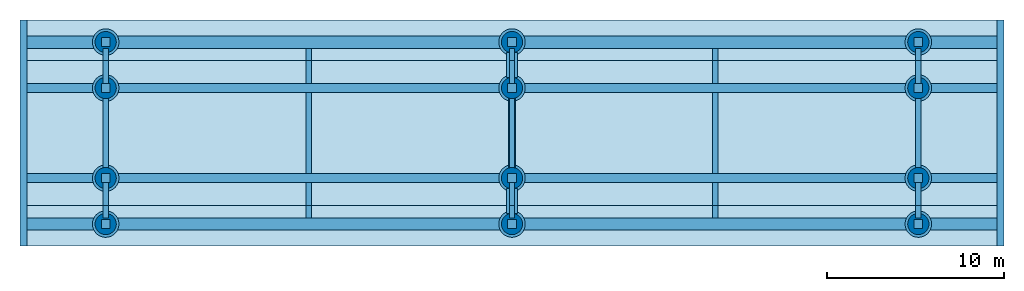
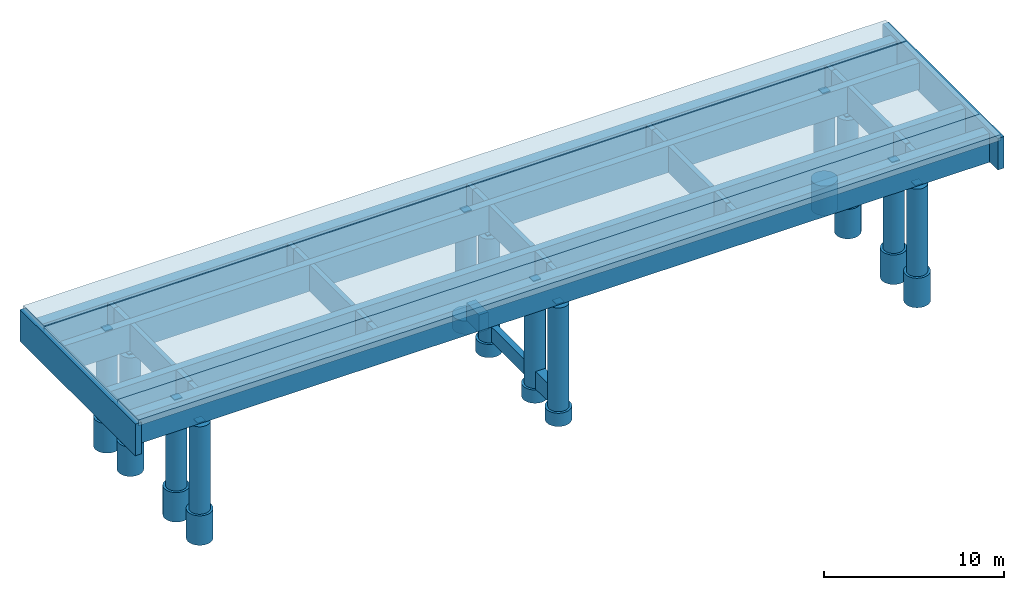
# Not in any storey: 53 members, 12 columns, 5 slabs, 3 beams.
"""IFC2X3 building model written with IfcOpenShell, lengths in millimetres."""

from ifc_helpers import new_model, si_unit, derived_unit, frame, origin, origin_2d, place, context, subcontext, project, spatial, polyline, rectangle, circle, outline, extrude, material, element, save


model = new_model("IFC2X3")

# Units and contexts
model_context = context("Model", 3, precision=1e-05, world=origin())
body_context = subcontext(model_context, "Body", "Model", "MODEL_VIEW")
ifc_project = project(units=[si_unit("LENGTHUNIT", "METRE", prefix="MILLI"), si_unit("AREAUNIT", "SQUARE_METRE"), si_unit("VOLUMEUNIT", "CUBIC_METRE"), si_unit("MASSUNIT", "GRAM", prefix="KILO"), si_unit("TIMEUNIT", "SECOND"), si_unit("PLANEANGLEUNIT", "RADIAN"), si_unit("SOLIDANGLEUNIT", "STERADIAN"), si_unit("THERMODYNAMICTEMPERATUREUNIT", "KELVIN"), si_unit("LUMINOUSINTENSITYUNIT", "LUMEN"), si_unit("POWERUNIT", "WATT"), derived_unit("THERMALTRANSMITTANCEUNIT", [(si_unit("AREAUNIT", "SQUARE_METRE"), -1), (si_unit("THERMODYNAMICTEMPERATUREUNIT", "KELVIN"), -1), (si_unit("POWERUNIT", "WATT"), 1)])], contexts=[model_context])

# Building
building_placement = place(None, origin())
building = spatial("IfcBuilding", under=ifc_project, at=building_placement, Name="Building", CompositionType="ELEMENT")

# Columns
ifc_material_1 = material(Name="C30")
column_1_placement = place(building_placement, frame((4650.0, 1250.0, -8150.0), z_axis=(-1.0, 0.0, 0.0), x_axis=(0.0, 0.0, 1.0)))
element("IfcColumn", 1, at=column_1_placement, inside=building, material=ifc_material_1, Name="B1", context=body_context, shape_type="SweptSolid", body=[
    extrude(circle(Radius=600.0, at=origin_2d()), frame((0.0, 0.0, 0.0), z_axis=(1.0, 0.0, 0.0), x_axis=(0.0, 1.0, 0.0)), (0.0, 0.0, 1.0), 5930.0),
])
ifc_material_2 = material(Name="C30")
column_2_placement = place(building_placement, frame((4650.0, 8950.0, -8150.0), z_axis=(-1.0, 0.0, 0.0), x_axis=(0.0, 6.030896e-10, 1.0)))
element("IfcColumn", 2, at=column_2_placement, inside=building, material=ifc_material_2, Name="B6", context=body_context, shape_type="SweptSolid", body=[
    extrude(circle(Radius=600.0, at=origin_2d()), frame((0.0, 0.0, 0.0), z_axis=(1.0, 0.0, 0.0), x_axis=(0.0, 1.0, 0.0)), (0.0, 0.0, 1.0), 5930.0),
])
ifc_material_3 = material(Name="C30")
column_3_placement = place(building_placement, frame((4650.0, 11550.0, -8150.0), z_axis=(-1.0, 0.0, 0.0), x_axis=(0.0, 0.0, 1.0)))
element("IfcColumn", 3, at=column_3_placement, inside=building, material=ifc_material_3, Name="B7", context=body_context, shape_type="SweptSolid", body=[
    extrude(circle(Radius=600.0, at=origin_2d()), frame((0.0, 0.0, 0.0), z_axis=(1.0, 0.0, 0.0), x_axis=(0.0, 1.0, 0.0)), (0.0, 0.0, 1.0), 5930.0),
])
ifc_material_4 = material(Name="C30")
column_4_placement = place(building_placement, frame((4650.0, 3850.0, -8150.0), z_axis=(-1.0, 0.0, 0.0), x_axis=(0.0, 0.0, 1.0)))
element("IfcColumn", 4, at=column_4_placement, inside=building, material=ifc_material_4, Name="B9", context=body_context, shape_type="SweptSolid", body=[
    extrude(circle(Radius=600.0, at=origin_2d()), frame((0.0, 0.0, 0.0), z_axis=(1.0, 0.0, 0.0), x_axis=(0.0, 1.0, 0.0)), (0.0, 0.0, 1.0), 5930.0),
])
ifc_material_5 = material(Name="C30")
column_5_placement = place(building_placement, frame((27650.0, 8950.0, -9250.0), z_axis=(-1.0, 0.0, 0.0), x_axis=(0.0, 0.0, 1.0)))
element("IfcColumn", 5, at=column_5_placement, inside=building, material=ifc_material_5, Name="B11", context=body_context, shape_type="SweptSolid", body=[
    extrude(circle(Radius=600.0, at=origin_2d()), frame((0.0, 0.0, 0.0), z_axis=(1.0, 0.0, 0.0), x_axis=(0.0, 1.0, 0.0)), (0.0, 0.0, 1.0), 7030.0),
])
ifc_material_6 = material(Name="C30")
column_6_placement = place(building_placement, frame((27650.0, 11550.0, -9250.0), z_axis=(-1.0, 0.0, 0.0), x_axis=(0.0, 0.0, 1.0)))
element("IfcColumn", 6, at=column_6_placement, inside=building, material=ifc_material_6, Name="B12", context=body_context, shape_type="SweptSolid", body=[
    extrude(circle(Radius=600.0, at=origin_2d()), frame((0.0, 0.0, 0.0), z_axis=(1.0, 0.0, 0.0), x_axis=(0.0, 1.0, 0.0)), (0.0, 0.0, 1.0), 7030.0),
])
ifc_material_7 = material(Name="C30")
column_7_placement = place(building_placement, frame((27650.0, 1250.0, -9250.0), z_axis=(-1.0, 0.0, 0.0), x_axis=(0.0, 0.0, 1.0)))
element("IfcColumn", 7, at=column_7_placement, inside=building, material=ifc_material_7, Name="B16", context=body_context, shape_type="SweptSolid", body=[
    extrude(circle(Radius=600.0, at=origin_2d()), frame((0.0, 0.0, 0.0), z_axis=(1.0, 0.0, 0.0), x_axis=(0.0, 1.0, 0.0)), (0.0, 0.0, 1.0), 7030.0),
])
ifc_material_8 = material(Name="C30")
column_8_placement = place(building_placement, frame((50650.0, 8950.0, -8150.0), z_axis=(-1.0, 0.0, 0.0), x_axis=(0.0, 0.0, 1.0)))
element("IfcColumn", 8, at=column_8_placement, inside=building, material=ifc_material_8, Name="B22", context=body_context, shape_type="SweptSolid", body=[
    extrude(circle(Radius=600.0, at=origin_2d()), frame((0.0, 0.0, 0.0), z_axis=(1.0, 0.0, 0.0), x_axis=(0.0, 1.0, 0.0)), (0.0, 0.0, 1.0), 5930.0),
])
ifc_material_9 = material(Name="C30")
column_9_placement = place(building_placement, frame((50650.0, 1250.0, -8150.0), z_axis=(-1.0, 0.0, 0.0), x_axis=(0.0, 0.0, 1.0)))
element("IfcColumn", 9, at=column_9_placement, inside=building, material=ifc_material_9, Name="B23", context=body_context, shape_type="SweptSolid", body=[
    extrude(circle(Radius=600.0, at=origin_2d()), frame((0.0, 0.0, 0.0), z_axis=(1.0, 0.0, 0.0), x_axis=(0.0, 1.0, 0.0)), (0.0, 0.0, 1.0), 5930.0),
])
ifc_material_10 = material(Name="C30")
column_10_placement = place(building_placement, frame((50650.0, 3850.0, -8150.0), z_axis=(-1.0, 0.0, 0.0), x_axis=(0.0, 0.0, 1.0)))
element("IfcColumn", 10, at=column_10_placement, inside=building, material=ifc_material_10, Name="B24", context=body_context, shape_type="SweptSolid", body=[
    extrude(circle(Radius=600.0, at=origin_2d()), frame((0.0, 0.0, 0.0), z_axis=(1.0, 0.0, 0.0), x_axis=(0.0, 1.0, 0.0)), (0.0, 0.0, 1.0), 5930.0),
])
ifc_material_11 = material(Name="C30")
column_11_placement = place(building_placement, frame((50650.0, 11550.0, -8150.0), z_axis=(-1.0, 0.0, 0.0), x_axis=(0.0, 0.0, 1.0)))
element("IfcColumn", 11, at=column_11_placement, inside=building, material=ifc_material_11, Name="B30", context=body_context, shape_type="SweptSolid", body=[
    extrude(circle(Radius=600.0, at=origin_2d()), frame((0.0, 0.0, 0.0), z_axis=(1.0, 0.0, 0.0), x_axis=(0.0, 1.0, 0.0)), (0.0, 0.0, 1.0), 5930.0),
])
ifc_material_12 = material(Name="C30")
column_12_placement = place(building_placement, frame((27650.0, 3850.0, -9250.0), z_axis=(-1.0, 0.0, 0.0), x_axis=(0.0, 0.0, 1.0)))
element("IfcColumn", 12, at=column_12_placement, inside=building, material=ifc_material_12, Name="B33", context=body_context, shape_type="SweptSolid", body=[
    extrude(circle(Radius=600.0, at=origin_2d()), frame((0.0, 0.0, 0.0), z_axis=(1.0, 0.0, 0.0), x_axis=(0.0, 1.0, 0.0)), (0.0, 0.0, 1.0), 7030.0),
])

# Members
ifc_material_13 = material(Name="C30")
member_1_placement = place(building_placement, frame((4650.0, 1250.0, -10150.0), z_axis=(-1.0, 0.0, 0.0), x_axis=(0.0, 0.0, 1.0)))
element("IfcMember", 13, at=member_1_placement, inside=building, material=ifc_material_13, Name="B2", ObjectType="member", context=body_context, shape_type="SweptSolid", body=[
    extrude(circle(Radius=750.0, at=origin_2d()), frame((0.0, 0.0, 0.0), z_axis=(1.0, 0.0, 0.0), x_axis=(0.0, 1.0, 0.0)), (0.0, 0.0, 1.0), 2000.0),
])
ifc_material_14 = material(Name="C30")
member_2_placement = place(building_placement, frame((4650.0, 3850.0, -10150.0), z_axis=(-1.0, 0.0, 0.0), x_axis=(0.0, 0.0, 1.0)))
element("IfcMember", 14, at=member_2_placement, inside=building, material=ifc_material_14, Name="B3", ObjectType="member", context=body_context, shape_type="SweptSolid", body=[
    extrude(circle(Radius=750.0, at=origin_2d()), frame((0.0, 0.0, 0.0), z_axis=(1.0, 0.0, 0.0), x_axis=(0.0, 1.0, 0.0)), (0.0, 0.0, 1.0), 2000.0),
])
ifc_material_15 = material(Name="C30")
member_3_placement = place(building_placement, frame((4650.0, 8950.0, -10150.0), z_axis=(-1.0, 0.0, 0.0), x_axis=(0.0, 0.0, 1.0)))
element("IfcMember", 15, at=member_3_placement, inside=building, material=ifc_material_15, Name="B4", ObjectType="member", context=body_context, shape_type="SweptSolid", body=[
    extrude(circle(Radius=750.0, at=origin_2d()), frame((0.0, 0.0, 0.0), z_axis=(1.0, 0.0, 0.0), x_axis=(0.0, 1.0, 0.0)), (0.0, 0.0, 1.0), 2000.0),
])
ifc_material_16 = material(Name="C30")
member_4_placement = place(building_placement, frame((4650.0, 11550.0, -10150.0), z_axis=(-1.0, 0.0, 0.0), x_axis=(0.0, 0.0, 1.0)))
element("IfcMember", 16, at=member_4_placement, inside=building, material=ifc_material_16, Name="B5", ObjectType="member", context=body_context, shape_type="SweptSolid", body=[
    extrude(circle(Radius=750.0, at=origin_2d()), frame((0.0, 0.0, 0.0), z_axis=(1.0, 0.0, 0.0), x_axis=(0.0, 1.0, 0.0)), (0.0, 0.0, 1.0), 2000.0),
])
ifc_material_17 = material(Name="C30")
member_5_placement = place(building_placement, frame((27650.0, 1250.0, -10150.0), z_axis=(-1.0, 0.0, 0.0), x_axis=(0.0, 0.0, 1.0)))
element("IfcMember", 17, at=member_5_placement, inside=building, material=ifc_material_17, Name="B18", ObjectType="member", context=body_context, shape_type="SweptSolid", body=[
    extrude(circle(Radius=750.0, at=origin_2d()), frame((0.0, 0.0, 0.0), z_axis=(1.0, 0.0, 0.0), x_axis=(0.0, 1.0, 0.0)), (0.0, 0.0, 1.0), 900.0),
])
ifc_material_18 = material(Name="C30")
member_6_placement = place(building_placement, frame((27650.0, 11550.0, -10150.0), z_axis=(-1.0, 0.0, 0.0), x_axis=(0.0, 0.0, 1.0)))
element("IfcMember", 18, at=member_6_placement, inside=building, material=ifc_material_18, Name="B20", ObjectType="member", context=body_context, shape_type="SweptSolid", body=[
    extrude(circle(Radius=750.0, at=origin_2d()), frame((0.0, 0.0, 0.0), z_axis=(1.0, 0.0, 0.0), x_axis=(0.0, 1.0, 0.0)), (0.0, 0.0, 1.0), 900.0),
])
ifc_material_19 = material(Name="C30")
member_7_placement = place(building_placement, frame((50650.0, 3850.0, -10150.0), z_axis=(-1.0, 0.0, 0.0), x_axis=(0.0, 0.0, 1.0)))
element("IfcMember", 19, at=member_7_placement, inside=building, material=ifc_material_19, Name="B26", ObjectType="member", context=body_context, shape_type="SweptSolid", body=[
    extrude(circle(Radius=750.0, at=origin_2d()), frame((0.0, 0.0, 0.0), z_axis=(1.0, 0.0, 0.0), x_axis=(0.0, 1.0, 0.0)), (0.0, 0.0, 1.0), 2000.0),
])
ifc_material_20 = material(Name="C30")
member_8_placement = place(building_placement, frame((50650.0, 8950.0, -10150.0), z_axis=(-1.0, 0.0, 0.0), x_axis=(0.0, -3.349825e-09, 1.0)))
element("IfcMember", 20, at=member_8_placement, inside=building, material=ifc_material_20, Name="B27", ObjectType="member", context=body_context, shape_type="SweptSolid", body=[
    extrude(circle(Radius=750.0, at=origin_2d()), frame((0.0, 0.0, 0.0), z_axis=(1.0, 0.0, 0.0), x_axis=(0.0, 1.0, 0.0)), (0.0, 0.0, 1.0), 2000.0),
])
ifc_material_21 = material(Name="C30")
member_9_placement = place(building_placement, frame((50650.0, 1250.0, -10150.0), z_axis=(-1.0, 0.0, 0.0), x_axis=(0.0, 0.0, 1.0)))
element("IfcMember", 21, at=member_9_placement, inside=building, material=ifc_material_21, Name="B28", ObjectType="member", context=body_context, shape_type="SweptSolid", body=[
    extrude(circle(Radius=750.0, at=origin_2d()), frame((0.0, 0.0, 0.0), z_axis=(1.0, 0.0, 0.0), x_axis=(0.0, 1.0, 0.0)), (0.0, 0.0, 1.0), 2000.0),
])
ifc_material_22 = material(Name="C30")
member_10_placement = place(building_placement, frame((50650.0, 11550.0, -10150.0), z_axis=(-1.0, 0.0, 0.0), x_axis=(0.0, 0.0, 1.0)))
element("IfcMember", 22, at=member_10_placement, inside=building, material=ifc_material_22, Name="B29", ObjectType="member", context=body_context, shape_type="SweptSolid", body=[
    extrude(circle(Radius=750.0, at=origin_2d()), frame((0.0, 0.0, 0.0), z_axis=(1.0, 0.0, 0.0), x_axis=(0.0, 1.0, 0.0)), (0.0, 0.0, 1.0), 2000.0),
])
ifc_material_23 = material(Name="C30")
member_11_placement = place(building_placement, frame((27650.0, 3850.0, -10150.0), z_axis=(-1.0, 0.0, 0.0), x_axis=(0.0, 0.0, 1.0)))
element("IfcMember", 23, at=member_11_placement, inside=building, material=ifc_material_23, Name="B31", ObjectType="member", context=body_context, shape_type="SweptSolid", body=[
    extrude(circle(Radius=750.0, at=origin_2d()), frame((0.0, 0.0, 0.0), z_axis=(1.0, 0.0, 0.0), x_axis=(0.0, 1.0, 0.0)), (0.0, 0.0, 1.0), 900.0),
])
ifc_material_24 = material(Name="C30")
member_12_placement = place(building_placement, frame((27650.0, 8950.0, -10150.0), z_axis=(-1.0, 0.0, 0.0), x_axis=(0.0, 0.0, 1.0)))
element("IfcMember", 24, at=member_12_placement, inside=building, material=ifc_material_24, Name="B32", ObjectType="member", context=body_context, shape_type="SweptSolid", body=[
    extrude(circle(Radius=750.0, at=origin_2d()), frame((0.0, 0.0, 0.0), z_axis=(1.0, 0.0, 0.0), x_axis=(0.0, 1.0, 0.0)), (0.0, 0.0, 1.0), 900.0),
])

# Beams
ifc_material_25 = material(Name="C30")
beam_1_placement = place(building_placement, frame((27650.0, 4450.0, -8650.0), z_axis=(0.0, 0.0, 1.0), x_axis=(0.0, 1.0, 0.0)))
element("IfcBeam", 25, at=beam_1_placement, inside=building, material=ifc_material_25, Name="B34", context=body_context, shape_type="SweptSolid", body=[
    extrude(rectangle(XDim=400.0, YDim=1000.0, at=origin_2d()), frame((0.0, 0.0, 0.0), z_axis=(1.0, 0.0, 0.0), x_axis=(0.0, 1.0, 0.0)), (0.0, 0.0, 1.0), 3900.0),
])
ifc_material_26 = material(Name="C20")
beam_2_placement = place(building_placement, frame((27650.0, 3250.0, -8650.0), z_axis=(0.0, 0.0, 1.0), x_axis=(0.0, -1.0, 0.0)))
element("IfcBeam", 26, at=beam_2_placement, inside=building, material=ifc_material_26, Name="B35", context=body_context, shape_type="SweptSolid", body=[
    extrude(rectangle(XDim=600.0, YDim=1200.0, at=origin_2d()), frame((0.0, 0.0, 0.0), z_axis=(1.0, 0.0, 0.0), x_axis=(0.0, 1.0, 0.0)), (0.0, 0.0, 1.0), 1400.0),
])
ifc_material_27 = material(Name="C20")
beam_3_placement = place(building_placement, frame((27650.0, 10950.0, -8650.0), z_axis=(0.0, 0.0, 1.0), x_axis=(0.0, -1.0, 0.0)))
element("IfcBeam", 27, at=beam_3_placement, inside=building, material=ifc_material_27, Name="B36", context=body_context, shape_type="SweptSolid", body=[
    extrude(rectangle(XDim=600.0, YDim=1200.0, at=origin_2d()), frame((0.0, 0.0, 0.0), z_axis=(1.0, 0.0, 0.0), x_axis=(0.0, 1.0, 0.0)), (0.0, 0.0, 1.0), 1400.0),
])

# Members
ifc_material_28 = material(Name="C30")
member_13_placement = place(building_placement, frame((55300.0, 1250.0, -1175.0), z_axis=(0.0, 0.0, 1.0), x_axis=(-1.0, 0.0, 0.0)))
element("IfcMember", 28, at=member_13_placement, inside=building, material=ifc_material_28, Name="B37", ObjectType="member", context=body_context, shape_type="SweptSolid", body=[
    extrude(rectangle(XDim=700.0, YDim=1950.0, at=origin_2d()), frame((0.0, 0.0, 0.0), z_axis=(1.0, 0.0, 0.0), x_axis=(0.0, 1.0, 0.0)), (0.0, 0.0, 1.0), 55300.0),
])
ifc_material_29 = material(Name="C30")
member_14_placement = place(building_placement, frame((55300.0, 11550.0, -1175.0), z_axis=(0.0, 0.0, 1.0), x_axis=(-1.0, 0.0, 0.0)))
element("IfcMember", 29, at=member_14_placement, inside=building, material=ifc_material_29, Name="B38", ObjectType="member", context=body_context, shape_type="SweptSolid", body=[
    extrude(rectangle(XDim=700.0, YDim=1950.0, at=origin_2d()), frame((0.0, 0.0, 0.0), z_axis=(1.0, 0.0, 0.0), x_axis=(0.0, 1.0, 0.0)), (0.0, 0.0, 1.0), 55300.0),
])
ifc_material_30 = material(Name="C30")
member_15_placement = place(building_placement, frame((55300.0, 3850.0, -1050.0), z_axis=(0.0, 0.0, 1.0), x_axis=(-1.0, 0.0, 0.0)))
element("IfcMember", 30, at=member_15_placement, inside=building, material=ifc_material_30, Name="B39", ObjectType="member", context=body_context, shape_type="SweptSolid", body=[
    extrude(rectangle(XDim=500.0, YDim=1800.0, at=origin_2d()), frame((0.0, 0.0, 0.0), z_axis=(1.0, 0.0, 0.0), x_axis=(0.0, 1.0, 0.0)), (0.0, 0.0, 1.0), 55300.0),
])
ifc_material_31 = material(Name="C30")
member_16_placement = place(building_placement, frame((55300.0, 8950.0, -1050.0), z_axis=(0.0, 0.0, 1.0), x_axis=(-1.0, 4.087618e-10, 0.0)))
element("IfcMember", 31, at=member_16_placement, inside=building, material=ifc_material_31, Name="B40", ObjectType="member", context=body_context, shape_type="SweptSolid", body=[
    extrude(rectangle(XDim=500.0, YDim=1800.0, at=origin_2d()), frame((0.0, 0.0, 0.0), z_axis=(1.0, 0.0, 0.0), x_axis=(0.0, 1.0, 0.0)), (0.0, 0.0, 1.0), 55300.0),
])
ifc_material_32 = material(Name="C30")
member_17_placement = place(building_placement, frame((4650.0, 3600.0, -1000.0), z_axis=(0.0, 0.0, 1.0), x_axis=(-5.730183e-16, -1.0, 0.0)))
element("IfcMember", 32, at=member_17_placement, inside=building, material=ifc_material_32, Name="B41", ObjectType="member", context=body_context, shape_type="SweptSolid", body=[
    extrude(rectangle(XDim=300.0, YDim=1700.0, at=origin_2d()), frame((0.0, 0.0, 0.0), z_axis=(1.0, 0.0, 0.0), x_axis=(0.0, 1.0, 0.0)), (0.0, 0.0, 1.0), 1300.0),
])
ifc_material_33 = material(Name="C30")
member_18_placement = place(building_placement, frame((4650.0, 11200.0, -1050.0), z_axis=(0.0, 0.0, 1.0), x_axis=(-8.458842e-16, -1.0, 0.0)))
element("IfcMember", 33, at=member_18_placement, inside=building, material=ifc_material_33, Name="B42", ObjectType="member", context=body_context, shape_type="SweptSolid", body=[
    extrude(rectangle(XDim=300.0, YDim=1700.0, at=origin_2d()), frame((0.0, 0.0, 0.0), z_axis=(1.0, 0.0, 0.0), x_axis=(0.0, 1.0, 0.0)), (0.0, 0.0, 1.0), 700.0),
])
ifc_material_34 = material(Name="C30")
member_19_placement = place(building_placement, frame((27650.0, 4100.0, -1050.0), z_axis=(0.0, 0.0, 1.0), x_axis=(0.0, 1.0, 0.0)))
element("IfcMember", 34, at=member_19_placement, inside=building, material=ifc_material_34, Name="B43", ObjectType="member", context=body_context, shape_type="SweptSolid", body=[
    extrude(rectangle(XDim=300.0, YDim=1800.0, at=origin_2d()), frame((0.0, 0.0, 0.0), z_axis=(1.0, 0.0, 0.0), x_axis=(0.0, 1.0, 0.0)), (0.0, 0.0, 1.0), 4600.0),
])
ifc_material_35 = material(Name="C30")
member_20_placement = place(building_placement, frame((27650.0, 11200.0, -1050.0), z_axis=(0.0, 0.0, 1.0), x_axis=(1.766308e-10, -1.0, 0.0)))
element("IfcMember", 35, at=member_20_placement, inside=building, material=ifc_material_35, Name="B44", ObjectType="member", context=body_context, shape_type="SweptSolid", body=[
    extrude(rectangle(XDim=300.0, YDim=1700.0, at=origin_2d()), frame((0.0, 0.0, 0.0), z_axis=(1.0, 0.0, 0.0), x_axis=(0.0, 1.0, 0.0)), (0.0, 0.0, 1.0), 700.0),
])
ifc_material_36 = material(Name="C30")
member_21_placement = place(building_placement, frame((27650.0, 3600.0, -1000.0), z_axis=(0.0, 0.0, 1.0), x_axis=(1.196531e-10, -1.0, 0.0)))
element("IfcMember", 36, at=member_21_placement, inside=building, material=ifc_material_36, Name="B45", ObjectType="member", context=body_context, shape_type="SweptSolid", body=[
    extrude(rectangle(XDim=300.0, YDim=1700.0, at=origin_2d()), frame((0.0, 0.0, 0.0), z_axis=(1.0, 0.0, 0.0), x_axis=(0.0, 1.0, 0.0)), (0.0, 0.0, 1.0), 1300.0),
])
ifc_material_37 = material(Name="C30")
member_22_placement = place(building_placement, frame((4650.0, 4100.0, -1050.0), z_axis=(0.0, 0.0, 1.0), x_axis=(0.0, 1.0, 0.0)))
element("IfcMember", 37, at=member_22_placement, inside=building, material=ifc_material_37, Name="B46", ObjectType="member", context=body_context, shape_type="SweptSolid", body=[
    extrude(rectangle(XDim=300.0, YDim=1800.0, at=origin_2d()), frame((0.0, 0.0, 0.0), z_axis=(1.0, 0.0, 0.0), x_axis=(0.0, 1.0, 0.0)), (0.0, 0.0, 1.0), 4600.0),
])
ifc_material_38 = material(Name="C30")
member_23_placement = place(building_placement, frame((39150.0, 1600.0, -1050.0), z_axis=(0.0, 0.0, 1.0), x_axis=(0.0, 1.0, 0.0)))
element("IfcMember", 38, at=member_23_placement, inside=building, material=ifc_material_38, Name="B47", ObjectType="member", context=body_context, shape_type="SweptSolid", body=[
    extrude(rectangle(XDim=300.0, YDim=1700.0, at=origin_2d()), frame((0.0, 0.0, 0.0), z_axis=(1.0, 0.0, 0.0), x_axis=(0.0, 1.0, 0.0)), (0.0, 0.0, 1.0), 700.0),
])
ifc_material_39 = material(Name="C30")
member_24_placement = place(building_placement, frame((39150.0, 11200.0, -1050.0), z_axis=(0.0, 0.0, 1.0), x_axis=(0.0, -1.0, 0.0)))
element("IfcMember", 39, at=member_24_placement, inside=building, material=ifc_material_39, Name="B48", ObjectType="member", context=body_context, shape_type="SweptSolid", body=[
    extrude(rectangle(XDim=300.0, YDim=1700.0, at=origin_2d()), frame((0.0, 0.0, 0.0), z_axis=(1.0, 0.0, 0.0), x_axis=(0.0, 1.0, 0.0)), (0.0, 0.0, 1.0), 700.0),
])
ifc_material_40 = material(Name="C30")
member_25_placement = place(building_placement, frame((50650.0, 11200.0, -1050.0), z_axis=(0.0, 0.0, 1.0), x_axis=(0.0, -1.0, 0.0)))
element("IfcMember", 40, at=member_25_placement, inside=building, material=ifc_material_40, Name="B49", ObjectType="member", context=body_context, shape_type="SweptSolid", body=[
    extrude(rectangle(XDim=300.0, YDim=1700.0, at=origin_2d()), frame((0.0, 0.0, 0.0), z_axis=(1.0, 0.0, 0.0), x_axis=(0.0, 1.0, 0.0)), (0.0, 0.0, 1.0), 700.0),
])
ifc_material_41 = material(Name="C30")
member_26_placement = place(building_placement, frame((50650.0, 3600.0, -1000.0), z_axis=(0.0, 0.0, 1.0), x_axis=(-4.584147e-15, -1.0, 0.0)))
element("IfcMember", 41, at=member_26_placement, inside=building, material=ifc_material_41, Name="B50", ObjectType="member", context=body_context, shape_type="SweptSolid", body=[
    extrude(rectangle(XDim=300.0, YDim=1700.0, at=origin_2d()), frame((0.0, 0.0, 0.0), z_axis=(1.0, 0.0, 0.0), x_axis=(0.0, 1.0, 0.0)), (0.0, 0.0, 1.0), 1300.0),
])
ifc_material_42 = material(Name="C30")
member_27_placement = place(building_placement, frame((39150.0, 4100.0, -1050.0), z_axis=(0.0, 0.0, 1.0), x_axis=(0.0, 1.0, 0.0)))
element("IfcMember", 42, at=member_27_placement, inside=building, material=ifc_material_42, Name="B51", ObjectType="member", context=body_context, shape_type="SweptSolid", body=[
    extrude(rectangle(XDim=300.0, YDim=1800.0, at=origin_2d()), frame((0.0, 0.0, 0.0), z_axis=(1.0, 0.0, 0.0), x_axis=(0.0, 1.0, 0.0)), (0.0, 0.0, 1.0), 4600.0),
])
ifc_material_43 = material(Name="C30")
member_28_placement = place(building_placement, frame((50650.0, 4100.0, -1050.0), z_axis=(0.0, 0.0, 1.0), x_axis=(0.0, 1.0, 0.0)))
element("IfcMember", 43, at=member_28_placement, inside=building, material=ifc_material_43, Name="B52", ObjectType="member", context=body_context, shape_type="SweptSolid", body=[
    extrude(rectangle(XDim=300.0, YDim=1800.0, at=origin_2d()), frame((0.0, 0.0, 0.0), z_axis=(1.0, 0.0, 0.0), x_axis=(0.0, 1.0, 0.0)), (0.0, 0.0, 1.0), 4600.0),
])
ifc_material_44 = material(Name="C30")
member_29_placement = place(building_placement, frame((16150.0, 3600.0, -1000.0), z_axis=(0.0, 0.0, 1.0), x_axis=(-2.292073e-15, -1.0, 0.0)))
element("IfcMember", 44, at=member_29_placement, inside=building, material=ifc_material_44, Name="B53", ObjectType="member", context=body_context, shape_type="SweptSolid", body=[
    extrude(rectangle(XDim=300.0, YDim=1700.0, at=origin_2d()), frame((0.0, 0.0, 0.0), z_axis=(1.0, 0.0, 0.0), x_axis=(0.0, 1.0, 0.0)), (0.0, 0.0, 1.0), 1300.0),
])
ifc_material_45 = material(Name="C30")
member_30_placement = place(building_placement, frame((16150.0, 4100.0, -1050.0), z_axis=(0.0, 0.0, 1.0), x_axis=(0.0, 1.0, 0.0)))
element("IfcMember", 45, at=member_30_placement, inside=building, material=ifc_material_45, Name="B54", ObjectType="member", context=body_context, shape_type="SweptSolid", body=[
    extrude(rectangle(XDim=300.0, YDim=1800.0, at=origin_2d()), frame((0.0, 0.0, 0.0), z_axis=(1.0, 0.0, 0.0), x_axis=(0.0, 1.0, 0.0)), (0.0, 0.0, 1.0), 4600.0),
])
ifc_material_46 = material(Name="C30")
member_31_placement = place(building_placement, frame((16150.0, 11200.0, -1050.0), z_axis=(0.0, 0.0, 1.0), x_axis=(-3.383537e-15, -1.0, 0.0)))
element("IfcMember", 46, at=member_31_placement, inside=building, material=ifc_material_46, Name="B55", ObjectType="member", context=body_context, shape_type="SweptSolid", body=[
    extrude(rectangle(XDim=300.0, YDim=1700.0, at=origin_2d()), frame((0.0, 0.0, 0.0), z_axis=(1.0, 0.0, 0.0), x_axis=(0.0, 1.0, 0.0)), (0.0, 0.0, 1.0), 700.0),
])
ifc_material_47 = material(Name="C30")
member_32_placement = place(building_placement, frame((4650.0, 2300.0, -1050.0), z_axis=(0.0, 0.0, 1.0), x_axis=(8.458842e-16, -1.0, 0.0)))
element("IfcMember", 47, at=member_32_placement, inside=building, material=ifc_material_47, Name="B56", ObjectType="member", context=body_context, shape_type="SweptSolid", body=[
    extrude(rectangle(XDim=300.0, YDim=1700.0, at=origin_2d()), frame((0.0, 0.0, 0.0), z_axis=(1.0, 0.0, 0.0), x_axis=(0.0, 1.0, 0.0)), (0.0, 0.0, 1.0), 700.0),
])
ifc_material_48 = material(Name="C30")
member_33_placement = place(building_placement, frame((16150.0, 2300.0, -1050.0), z_axis=(0.0, 0.0, 1.0), x_axis=(3.383537e-15, -1.0, 0.0)))
element("IfcMember", 48, at=member_33_placement, inside=building, material=ifc_material_48, Name="B57", ObjectType="member", context=body_context, shape_type="SweptSolid", body=[
    extrude(rectangle(XDim=300.0, YDim=1700.0, at=origin_2d()), frame((0.0, 0.0, 0.0), z_axis=(1.0, 0.0, 0.0), x_axis=(0.0, 1.0, 0.0)), (0.0, 0.0, 1.0), 700.0),
])
ifc_material_49 = material(Name="C30")
member_34_placement = place(building_placement, frame((27650.0, 2300.0, -1050.0), z_axis=(0.0, 0.0, 1.0), x_axis=(-1.766308e-10, -1.0, 0.0)))
element("IfcMember", 49, at=member_34_placement, inside=building, material=ifc_material_49, Name="B58", ObjectType="member", context=body_context, shape_type="SweptSolid", body=[
    extrude(rectangle(XDim=300.0, YDim=1700.0, at=origin_2d()), frame((0.0, 0.0, 0.0), z_axis=(1.0, 0.0, 0.0), x_axis=(0.0, 1.0, 0.0)), (0.0, 0.0, 1.0), 700.0),
])
ifc_material_50 = material(Name="C30")
member_35_placement = place(building_placement, frame((39150.0, 2300.0, -1000.0), z_axis=(0.0, 0.0, 1.0), x_axis=(0.0, 1.0, 0.0)))
element("IfcMember", 50, at=member_35_placement, inside=building, material=ifc_material_50, Name="B59", ObjectType="member", context=body_context, shape_type="SweptSolid", body=[
    extrude(rectangle(XDim=300.0, YDim=1700.0, at=origin_2d()), frame((0.0, 0.0, 0.0), z_axis=(1.0, 0.0, 0.0), x_axis=(0.0, 1.0, 0.0)), (0.0, 0.0, 1.0), 1300.0),
])
ifc_material_51 = material(Name="C30")
member_36_placement = place(building_placement, frame((50650.0, 2300.0, -1050.0), z_axis=(0.0, 0.0, 1.0), x_axis=(6.767074e-15, -1.0, 0.0)))
element("IfcMember", 51, at=member_36_placement, inside=building, material=ifc_material_51, Name="B60", ObjectType="member", context=body_context, shape_type="SweptSolid", body=[
    extrude(rectangle(XDim=300.0, YDim=1700.0, at=origin_2d()), frame((0.0, 0.0, 0.0), z_axis=(1.0, 0.0, 0.0), x_axis=(0.0, 1.0, 0.0)), (0.0, 0.0, 1.0), 700.0),
])
ifc_material_52 = material(Name="C30")
member_37_placement = place(building_placement, frame((50650.0, 10500.0, -1000.0), z_axis=(0.0, 0.0, 1.0), x_axis=(0.0, -1.0, 0.0)))
element("IfcMember", 52, at=member_37_placement, inside=building, material=ifc_material_52, Name="B61", ObjectType="member", context=body_context, shape_type="SweptSolid", body=[
    extrude(rectangle(XDim=300.0, YDim=1700.0, at=origin_2d()), frame((0.0, 0.0, 0.0), z_axis=(1.0, 0.0, 0.0), x_axis=(0.0, 1.0, 0.0)), (0.0, 0.0, 1.0), 1300.0),
])
ifc_material_53 = material(Name="C30")
member_38_placement = place(building_placement, frame((39150.0, 10500.0, -1000.0), z_axis=(0.0, 0.0, 1.0), x_axis=(0.0, -1.0, 0.0)))
element("IfcMember", 53, at=member_38_placement, inside=building, material=ifc_material_53, Name="B62", ObjectType="member", context=body_context, shape_type="SweptSolid", body=[
    extrude(rectangle(XDim=300.0, YDim=1700.0, at=origin_2d()), frame((0.0, 0.0, 0.0), z_axis=(1.0, 0.0, 0.0), x_axis=(0.0, 1.0, 0.0)), (0.0, 0.0, 1.0), 1300.0),
])
ifc_material_54 = material(Name="C30")
member_39_placement = place(building_placement, frame((27650.0, 10500.0, -1000.0), z_axis=(0.0, 0.0, 1.0), x_axis=(-1.196531e-10, -1.0, 0.0)))
element("IfcMember", 54, at=member_39_placement, inside=building, material=ifc_material_54, Name="B63", ObjectType="member", context=body_context, shape_type="SweptSolid", body=[
    extrude(rectangle(XDim=300.0, YDim=1700.0, at=origin_2d()), frame((0.0, 0.0, 0.0), z_axis=(1.0, 0.0, 0.0), x_axis=(0.0, 1.0, 0.0)), (0.0, 0.0, 1.0), 1300.0),
])
ifc_material_55 = material(Name="C30")
member_40_placement = place(building_placement, frame((16150.0, 10500.0, -1000.0), z_axis=(0.0, 0.0, 1.0), x_axis=(2.292073e-15, -1.0, 0.0)))
element("IfcMember", 55, at=member_40_placement, inside=building, material=ifc_material_55, Name="B64", ObjectType="member", context=body_context, shape_type="SweptSolid", body=[
    extrude(rectangle(XDim=300.0, YDim=1700.0, at=origin_2d()), frame((0.0, 0.0, 0.0), z_axis=(1.0, 0.0, 0.0), x_axis=(0.0, 1.0, 0.0)), (0.0, 0.0, 1.0), 1300.0),
])
ifc_material_56 = material(Name="C30")
member_41_placement = place(building_placement, frame((4650.0, 10500.0, -1000.0), z_axis=(0.0, 0.0, 1.0), x_axis=(5.730183e-16, -1.0, 0.0)))
element("IfcMember", 56, at=member_41_placement, inside=building, material=ifc_material_56, Name="B65", ObjectType="member", context=body_context, shape_type="SweptSolid", body=[
    extrude(rectangle(XDim=300.0, YDim=1700.0, at=origin_2d()), frame((0.0, 0.0, 0.0), z_axis=(1.0, 0.0, 0.0), x_axis=(0.0, 1.0, 0.0)), (0.0, 0.0, 1.0), 1300.0),
])
ifc_material_57 = material(Name="C30")
member_42_placement = place(building_placement, frame((4650.0, 1250.0, -2220.0), z_axis=(-1.0, 0.0, 0.0), x_axis=(0.0, 0.0, 1.0)))
element("IfcMember", 57, at=member_42_placement, inside=building, material=ifc_material_57, Name="B66", ObjectType="member", context=body_context, shape_type="SweptSolid", body=[
    extrude(rectangle(XDim=500.0, YDim=500.0, at=origin_2d()), frame((0.0, 0.0, 0.0), z_axis=(1.0, 0.0, 0.0), x_axis=(0.0, 1.0, 0.0)), (0.0, 0.0, 1.0), 70.0),
])
ifc_material_58 = material(Name="C30")
member_43_placement = place(building_placement, frame((4650.0, 3850.0, -2220.0), z_axis=(-1.0, -3.139893e-16, -1.498571e-08), x_axis=(-1.498571e-08, 2.095257e-08, 1.0)))
element("IfcMember", 58, at=member_43_placement, inside=building, material=ifc_material_58, Name="B67", ObjectType="member", context=body_context, shape_type="SweptSolid", body=[
    extrude(rectangle(XDim=500.0, YDim=500.0, at=origin_2d()), frame((0.0, 0.0, 0.0), z_axis=(1.0, 0.0, 0.0), x_axis=(0.0, 1.0, 0.0)), (0.0, 0.0, 1.0), 70.0),
])
ifc_material_59 = material(Name="C30")
member_44_placement = place(building_placement, frame((4650.0, 8950.0, -2220.0), z_axis=(-1.0, 0.0, -1.3488e-08), x_axis=(-1.3488e-08, 0.0, 1.0)))
element("IfcMember", 59, at=member_44_placement, inside=building, material=ifc_material_59, Name="B68", ObjectType="member", context=body_context, shape_type="SweptSolid", body=[
    extrude(rectangle(XDim=500.0, YDim=500.0, at=origin_2d()), frame((0.0, 0.0, 0.0), z_axis=(1.0, 0.0, 0.0), x_axis=(0.0, 1.0, 0.0)), (0.0, 0.0, 1.0), 70.0),
])
ifc_material_60 = material(Name="C30")
member_45_placement = place(building_placement, frame((4650.0, 11550.0, -2220.0), z_axis=(-1.0, 0.0, 0.0), x_axis=(0.0, 0.0, 1.0)))
element("IfcMember", 60, at=member_45_placement, inside=building, material=ifc_material_60, Name="B69", ObjectType="member", context=body_context, shape_type="SweptSolid", body=[
    extrude(rectangle(XDim=500.0, YDim=500.0, at=origin_2d()), frame((0.0, 0.0, 0.0), z_axis=(1.0, 0.0, 0.0), x_axis=(0.0, 1.0, 0.0)), (0.0, 0.0, 1.0), 70.0),
])
ifc_material_61 = material(Name="C30")
member_46_placement = place(building_placement, frame((27650.0, 1250.0, -2220.0), z_axis=(-1.0, 0.0, 0.0), x_axis=(0.0, 0.0, 1.0)))
element("IfcMember", 61, at=member_46_placement, inside=building, material=ifc_material_61, Name="B70", ObjectType="member", context=body_context, shape_type="SweptSolid", body=[
    extrude(rectangle(XDim=500.0, YDim=500.0, at=origin_2d()), frame((0.0, 0.0, 0.0), z_axis=(1.0, 0.0, 0.0), x_axis=(0.0, 1.0, 0.0)), (0.0, 0.0, 1.0), 70.0),
])
ifc_material_62 = material(Name="C30")
member_47_placement = place(building_placement, frame((27650.0, 3850.0, -2220.0), z_axis=(-1.0, 0.0, 0.0), x_axis=(0.0, 0.0, 1.0)))
element("IfcMember", 62, at=member_47_placement, inside=building, material=ifc_material_62, Name="B71", ObjectType="member", context=body_context, shape_type="SweptSolid", body=[
    extrude(rectangle(XDim=500.0, YDim=500.0, at=origin_2d()), frame((0.0, 0.0, 0.0), z_axis=(1.0, 0.0, 0.0), x_axis=(0.0, 1.0, 0.0)), (0.0, 0.0, 1.0), 70.0),
])
ifc_material_63 = material(Name="C30")
member_48_placement = place(building_placement, frame((27650.0, 8950.0, -2220.0), z_axis=(-1.0, 0.0, -1.0544e-08), x_axis=(-1.0544e-08, 0.0, 1.0)))
element("IfcMember", 63, at=member_48_placement, inside=building, material=ifc_material_63, Name="B72", ObjectType="member", context=body_context, shape_type="SweptSolid", body=[
    extrude(rectangle(XDim=500.0, YDim=500.0, at=origin_2d()), frame((0.0, 0.0, 0.0), z_axis=(1.0, 0.0, 0.0), x_axis=(0.0, 1.0, 0.0)), (0.0, 0.0, 1.0), 70.0),
])
ifc_material_64 = material(Name="C30")
member_49_placement = place(building_placement, frame((27650.0, 11550.0, -2220.0), z_axis=(-1.0, 0.0, 0.0), x_axis=(0.0, 0.0, 1.0)))
element("IfcMember", 64, at=member_49_placement, inside=building, material=ifc_material_64, Name="B73", ObjectType="member", context=body_context, shape_type="SweptSolid", body=[
    extrude(rectangle(XDim=500.0, YDim=500.0, at=origin_2d()), frame((0.0, 0.0, 0.0), z_axis=(1.0, 0.0, 0.0), x_axis=(0.0, 1.0, 0.0)), (0.0, 0.0, 1.0), 70.0),
])
ifc_material_65 = material(Name="C30")
member_50_placement = place(building_placement, frame((50650.0, 1250.0, -2220.0), z_axis=(-1.0, 0.0, 0.0), x_axis=(0.0, 0.0, 1.0)))
element("IfcMember", 65, at=member_50_placement, inside=building, material=ifc_material_65, Name="B74", ObjectType="member", context=body_context, shape_type="SweptSolid", body=[
    extrude(rectangle(XDim=500.0, YDim=500.0, at=origin_2d()), frame((0.0, 0.0, 0.0), z_axis=(1.0, 0.0, 0.0), x_axis=(0.0, 1.0, 0.0)), (0.0, 0.0, 1.0), 70.0),
])
ifc_material_66 = material(Name="C30")
member_51_placement = place(building_placement, frame((50650.0, 3850.0, -2220.0), z_axis=(-1.0, -2.735088e-18, -4.582493e-09), x_axis=(-4.582493e-09, 5.968559e-10, 1.0)))
element("IfcMember", 66, at=member_51_placement, inside=building, material=ifc_material_66, Name="B75", ObjectType="member", context=body_context, shape_type="SweptSolid", body=[
    extrude(rectangle(XDim=500.0, YDim=500.0, at=origin_2d()), frame((0.0, 0.0, 0.0), z_axis=(1.0, 0.0, 0.0), x_axis=(0.0, 1.0, 0.0)), (0.0, 0.0, 1.0), 70.0),
])
ifc_material_67 = material(Name="C30")
member_52_placement = place(building_placement, frame((50650.0, 8950.0, -2220.0), z_axis=(-1.0, 0.0, -6.404629e-09), x_axis=(-6.404629e-09, 0.0, 1.0)))
element("IfcMember", 67, at=member_52_placement, inside=building, material=ifc_material_67, Name="B76", ObjectType="member", context=body_context, shape_type="SweptSolid", body=[
    extrude(rectangle(XDim=500.0, YDim=500.0, at=origin_2d()), frame((0.0, 0.0, 0.0), z_axis=(1.0, 0.0, 0.0), x_axis=(0.0, 1.0, 0.0)), (0.0, 0.0, 1.0), 70.0),
])
ifc_material_68 = material(Name="C30")
member_53_placement = place(building_placement, frame((50650.0, 11550.0, -2220.0), z_axis=(-1.0, 0.0, 0.0), x_axis=(0.0, 0.0, 1.0)))
element("IfcMember", 68, at=member_53_placement, inside=building, material=ifc_material_68, Name="B77", ObjectType="member", context=body_context, shape_type="SweptSolid", body=[
    extrude(rectangle(XDim=500.0, YDim=500.0, at=origin_2d()), frame((0.0, 0.0, 0.0), z_axis=(1.0, 0.0, 0.0), x_axis=(0.0, 1.0, 0.0)), (0.0, 0.0, 1.0), 70.0),
])

# Slabs
ifc_material_69 = material(Name="C30")
slab_1_placement = place(building_placement, frame((0.0, 0.0, -200.0), z_axis=(0.0, 0.0, 1.0), x_axis=(1.0, 0.0, 0.0)))
element("IfcSlab", 69, at=slab_1_placement, inside=building, material=ifc_material_69, Name="S4", PredefinedType="FLOOR", context=body_context, shape_type="SweptSolid", body=[
    extrude(outline(polyline([(0.0, 0.0), (0.0, 2300.0), (55300.0, 2300.0), (55300.0, 0.0), (0.0, 0.0)])), origin(), (0.0, 0.0, 1.0), 400.0),
])
ifc_material_70 = material(Name="C30")
slab_2_placement = place(building_placement, frame((55300.0, 10500.0, -200.0), z_axis=(0.0, 0.0, 1.0), x_axis=(1.0, 0.0, 0.0)))
element("IfcSlab", 70, at=slab_2_placement, inside=building, material=ifc_material_70, Name="S5", PredefinedType="FLOOR", context=body_context, shape_type="SweptSolid", body=[
    extrude(outline(polyline([(0.0, 0.0), (-55300.0, 0.0), (-55300.0, 2300.0), (0.0, 2300.0), (0.0, 0.0)])), origin(), (0.0, 0.0, 1.0), 400.0),
])
ifc_material_71 = material(Name="C30")
slab_3_placement = place(building_placement, frame((55300.0, 2300.0, -150.0), z_axis=(0.0, 0.0, 1.0), x_axis=(1.0, 0.0, 0.0)))
element("IfcSlab", 71, at=slab_3_placement, inside=building, material=ifc_material_71, Name="S6", PredefinedType="FLOOR", context=body_context, shape_type="SweptSolid", body=[
    extrude(outline(polyline([(0.0, 0.0), (-55300.0, 0.0), (-55300.0, 8200.0), (0.0, 8200.0), (0.0, 0.0)])), origin(), (0.0, 0.0, 1.0), 300.0),
])
ifc_material_72 = material(Name="C30")
slab_4_placement = place(building_placement, frame((55100.0, 0.0, -2150.0), z_axis=(1.0, 0.0, 0.0), x_axis=(0.0, 1.0, 0.0)))
element("IfcSlab", 72, at=slab_4_placement, inside=building, material=ifc_material_72, Name="S7", PredefinedType="FLOOR", context=body_context, shape_type="SweptSolid", body=[
    extrude(outline(polyline([(0.0, 0.0), (12800.0, 0.0), (12800.0, 2150.0), (0.0, 2150.0), (0.0, 0.0)])), origin(), (0.0, 0.0, 1.0), 400.0),
])
ifc_material_73 = material(Name="C30")
slab_5_placement = place(building_placement, frame((-200.0, 0.0, -2150.0), z_axis=(1.0, 0.0, 0.0), x_axis=(0.0, 1.0, 0.0)))
element("IfcSlab", 73, at=slab_5_placement, inside=building, material=ifc_material_73, Name="S8", PredefinedType="FLOOR", context=body_context, shape_type="SweptSolid", body=[
    extrude(outline(polyline([(0.0, 0.0), (12800.0, 0.0), (12800.0, 2150.0), (0.0, 2150.0), (0.0, 0.0)])), origin(), (0.0, 0.0, 1.0), 400.0),
])

save(model, "model.ifc")
